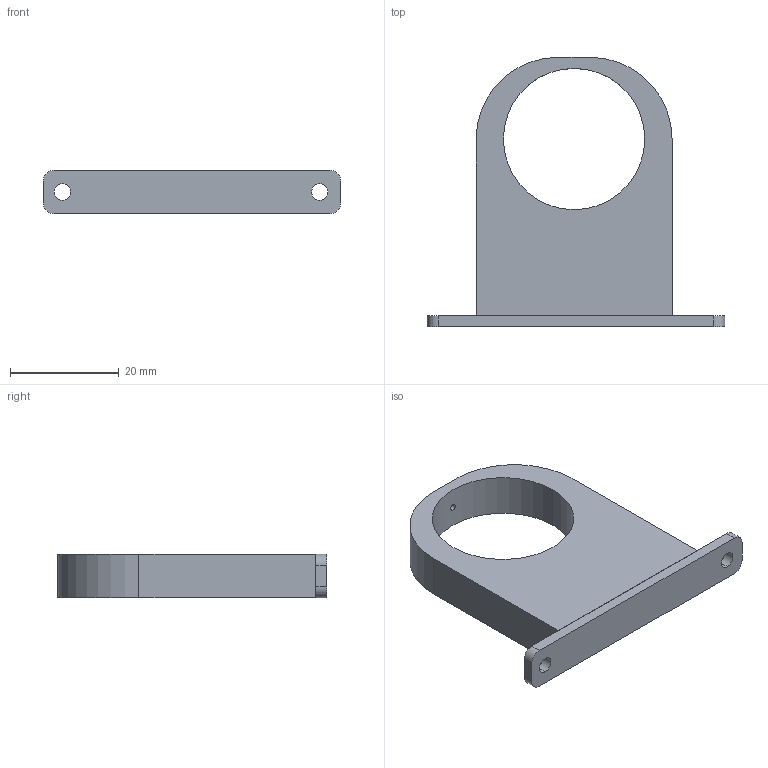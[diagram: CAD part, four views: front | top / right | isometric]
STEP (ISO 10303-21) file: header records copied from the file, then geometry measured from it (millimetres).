
FILE_DESCRIPTION (( 'STEP AP214' ), '1' );
FILE_NAME ('reflection-bracket.STEP', '2025-08-06T07:25:42', ( '' ), ( '' ), 'SwSTEP 2.0', 'SolidWorks 2024', '' );
FILE_SCHEMA (( 'AUTOMOTIVE_DESIGN' ));
Length unit declared in the file: millimetre
Products named in the file (1): reflection-bracket
Bounding box: 54.71 x 49.53 x 8 mm (x, y, z)
Volume: 9520.9 mm3; surface area: 4609.2 mm2
Topology: 1 solids, 1 shells, 24 faces, 66 edges, 44 vertices
Faces by surface type: cylinder 14, plane 10
Entity records: 829 total; most frequent: CARTESIAN_POINT 153, DIRECTION 140, ORIENTED_EDGE 132, EDGE_CURVE 66, AXIS2_PLACEMENT_3D 51, VERTEX_POINT 44, VECTOR 38, LINE 38
